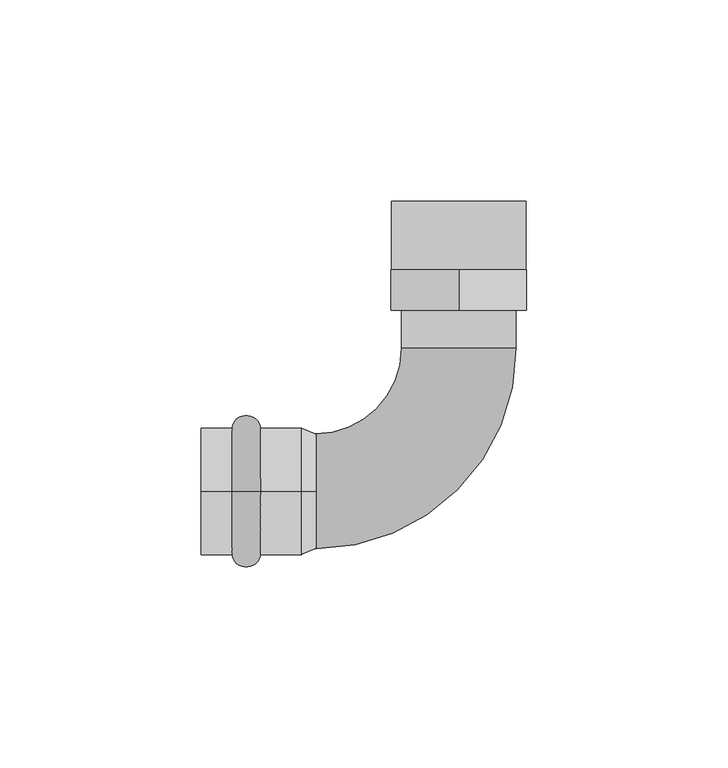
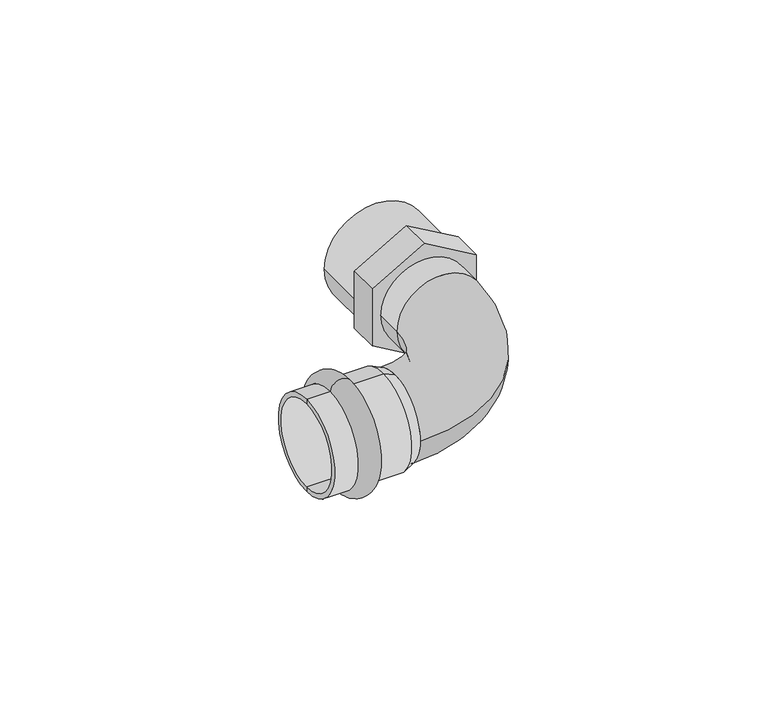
"""IFC4 building model written with IfcOpenShell, lengths in millimetres: pipe fitting geometry."""

from ifc_helpers import new_model, si_unit, point, frame, frame_2d, origin, place, context, project, spatial, polyline, circle_curve, ellipse_curve, trimmed, segment, composite_curve, outline, extrude, source, transform, mapped, element, save
from ifc_brep_helpers import plane_surface, cylinder_surface, revolved_surface, advanced_brep


def pipe_fitting_73b8666e(model_context):
    return source(origin(), model_context, "Body", "SolidModel", [
        advanced_brep(
        [(-17.3, 0.0, 15.75), (-17.3, 0.0, -15.75), (-10.3, 0.0, -15.75), (-10.3, 0.0, 15.75)],
        [
            (0, 1, circle_curve(frame((-17.3, 0.0, 0.0), z_axis=(-1.0, 0.0, 0.0), x_axis=(0.0, 0.0, -1.0)), 15.75)),
            (1, 2),
            (2, 3, circle_curve(frame((-10.3, 0.0, 0.0), z_axis=(1.0, 0.0, 0.0), x_axis=(0.0, 0.0, -1.0)), 15.75)),
            (3, 0),
            (1, 0, circle_curve(frame((-17.3, 0.0, 0.0), z_axis=(-1.0, 0.0, 0.0), x_axis=(0.0, 0.0, -1.0)), 15.75)),
            (3, 2, circle_curve(frame((-10.3, 0.0, 0.0), z_axis=(1.0, 0.0, 0.0), x_axis=(0.0, 0.0, -1.0)), 15.75)),
            (2, 1, ellipse_curve(frame((-13.8, 0.0, -15.75), z_axis=(0.0, 1.0, 0.0), x_axis=(-1.0, 0.0, 0.0)), 3.5, 3.1)),
            (0, 3, ellipse_curve(frame((-13.8, 0.0, 15.75), z_axis=(0.0, 1.0, 0.0), x_axis=(-1.0, 0.0, 0.0)), 3.5, 3.1)),
        ],
        [
            revolved_surface(polyline([(-10.3, 0.0, -15.75), (-17.3, 0.0, -15.75)]), (2.7, 0.0, 0.0), (1.0, 0.0, 0.0)),
            revolved_surface(trimmed(ellipse_curve(frame((-13.8, 0.0, -15.75), z_axis=(0.0, -1.0, 0.0), x_axis=(-1.0, 0.0, 0.0)), 3.5, 3.1), [point((-17.3, 0.0, -15.75))], [point((-10.3, 0.0, -15.75))], True, "CARTESIAN"), (2.7, 0.0, 0.0), (1.0, 0.0, 0.0)),
        ],
        [
            (0, [[1, 2, 3, 4]]),
            (0, [[5, -4, 6, -2]]),
            (1, [[-3, 7, -1, 8]]),
            (1, [[-6, -8, -5, -7]]),
        ],
    ),
        advanced_brep(
        [(3.5337785, 0.0, 14.25), (3.5337785, 0.0, -14.25), (0.0, 0.0, -15.75), (0.0, 0.0, 15.75), (-25.0, 0.0, 14.25), (-25.0, 0.0, -14.25), (-25.0, 0.0, 15.75), (-25.0, 0.0, -15.75)],
        [
            (0, 1, circle_curve(frame((3.5337785, 0.0, 0.0), z_axis=(-1.0, 0.0, 0.0), x_axis=(0.0, 0.0, -1.0)), 14.25)),
            (1, 2),
            (2, 3, circle_curve(frame((0.0, 0.0, 0.0), z_axis=(1.0, 0.0, 0.0), x_axis=(0.0, 0.0, -1.0)), 15.75)),
            (3, 0),
            (1, 0, circle_curve(frame((3.5337785, 0.0, 0.0), z_axis=(-1.0, 0.0, 0.0), x_axis=(0.0, 0.0, -1.0)), 14.25)),
            (3, 2, circle_curve(frame((0.0, 0.0, 0.0), z_axis=(1.0, 0.0, 0.0), x_axis=(0.0, 0.0, -1.0)), 15.75)),
            (4, 5, circle_curve(frame((-25.0, 0.0, 0.0), z_axis=(-1.0, 0.0, 0.0), x_axis=(0.0, 0.0, -1.0)), 14.25)),
            (5, 1),
            (0, 4),
            (5, 4, circle_curve(frame((-25.0, 0.0, 0.0), z_axis=(-1.0, 0.0, 0.0), x_axis=(0.0, 0.0, -1.0)), 14.25)),
            (6, 7, circle_curve(frame((-25.0, 0.0, 0.0), z_axis=(-1.0, 0.0, 0.0), x_axis=(0.0, 0.0, -1.0)), 15.75)),
            (7, 5),
            (4, 6),
            (7, 6, circle_curve(frame((-25.0, 0.0, 0.0), z_axis=(-1.0, 0.0, 0.0), x_axis=(0.0, 0.0, -1.0)), 15.75)),
            (2, 7),
            (6, 3),
        ],
        [
            revolved_surface(polyline([(0.0, 0.0, -15.75), (3.5337785, 0.0, -14.25)]), (2.7, 0.0, 0.0), (1.0, 0.0, 0.0)),
            revolved_surface(polyline([(3.5337785, 0.0, -14.25), (-25.0, 0.0, -14.25)]), (2.7, 0.0, 0.0), (1.0, 0.0, 0.0)),
            plane_surface(frame((-25.0, 0.0, 0.0), z_axis=(-1.0, 0.0, 0.0), x_axis=(0.0, 0.0, -1.0))),
            cylinder_surface(frame((2.7, 0.0, 0.0), z_axis=(1.0, 0.0, 0.0), x_axis=(0.0, 0.0, -1.0)), 15.75),
        ],
        [
            (0, [[1, 2, 3, 4]]),
            (0, [[5, -4, 6, -2]]),
            (1, [[7, 8, -1, 9]]),
            (1, [[10, -9, -5, -8]]),
            (2, [[11, 12, -7, 13]]),
            (2, [[14, -13, -10, -12]]),
            (3, [[-3, 15, -11, 16]]),
            (3, [[-6, -16, -14, -15]]),
        ],
    ),
        extrude(outline(polyline([(9.728352, 55.85), (19.4567041, 39.0), (9.728352, 22.15), (-9.728352, 22.15), (-19.4567041, 39.0), (-9.728352, 55.85), (9.728352, 55.85)]), holes=[polyline([(-5.34049, 29.75), (5.34049, 29.75), (10.68098, 39.0), (5.34049, 48.25), (-5.34049, 48.25), (-10.68098, 39.0), (-5.34049, 29.75)])]), frame((0.0, 45.0, 0.0), z_axis=(0.0, 1.0, 0.0), x_axis=(0.0, 0.0, 1.0)), (0.0, 0.0, 1.0), 10.0),
        extrude(outline(composite_curve([segment(trimmed(circle_curve(frame_2d((0.0, 39.0)), 16.75), [point((0.0, 22.25))], [point((0.0, 55.75))], False, "CARTESIAN"), True, "CONTINUOUS"), segment(trimmed(circle_curve(frame_2d((0.0, 39.0)), 16.75), [point((0.0, 55.75))], [point((0.0, 22.25))], False, "CARTESIAN"), True, "CONTINUOUS")], self_intersect=False)), frame((0.0, 55.0, 0.0), z_axis=(0.0, 1.0, 0.0), x_axis=(0.0, 0.0, 1.0)), (0.0, 0.0, 1.0), 17.0),
        advanced_brep(
        [(0.0, -14.25, 0.0), (0.0, 14.25, 0.0), (3.5337785, -14.25, 0.0), (3.5337785, 14.25, 0.0), (24.75, 35.4662215, 0.0), (53.25, 35.4662215, 0.0), (53.25, 45.0, 0.0), (24.75, 45.0, 0.0)],
        [
            (0, 1, circle_curve(frame((0.0, 0.0, 0.0), z_axis=(-1.0, 0.0, 0.0), x_axis=(0.0, 1.0, 0.0)), 14.25)),
            (1, 0, circle_curve(frame((0.0, 0.0, 0.0), z_axis=(-1.0, 0.0, 0.0), x_axis=(0.0, 1.0, 0.0)), 14.25)),
            (0, 2),
            (2, 3, circle_curve(frame((3.5337785, 0.0, 0.0), z_axis=(-1.0, 0.0, 0.0), x_axis=(0.0, 1.0, 0.0)), 14.25)),
            (3, 1),
            (3, 2, circle_curve(frame((3.5337785, 0.0, 0.0), z_axis=(-1.0, 0.0, 0.0), x_axis=(0.0, 1.0, 0.0)), 14.25)),
            (4, 3, circle_curve(frame((3.5337785, 35.4662215, 0.0), z_axis=(0.0, 0.0, -1.0), x_axis=(0.0, -1.0, 0.0)), 21.2162215)),
            (2, 5, circle_curve(frame((3.5337785, 35.4662215, 0.0), z_axis=(0.0, 0.0, 1.0), x_axis=(0.0, -1.0, 0.0)), 49.7162215)),
            (5, 4, circle_curve(frame((39.0, 35.4662215, 0.0), z_axis=(0.0, -1.0, 0.0), x_axis=(-1.0, 0.0, 0.0)), 14.25)),
            (4, 5, circle_curve(frame((39.0, 35.4662215, 0.0), z_axis=(0.0, -1.0, 0.0), x_axis=(-1.0, 0.0, 0.0)), 14.25)),
            (6, 7, circle_curve(frame((39.0, 45.0, 0.0), z_axis=(0.0, 1.0, 0.0), x_axis=(-1.0, 0.0, 0.0)), 14.25)),
            (7, 6, circle_curve(frame((39.0, 45.0, 0.0), z_axis=(0.0, 1.0, 0.0), x_axis=(-1.0, 0.0, 0.0)), 14.25)),
            (5, 6),
            (7, 4),
        ],
        [
            plane_surface(frame((0.0, 0.0, 0.0), z_axis=(-1.0, 0.0, 0.0), x_axis=(0.0, 0.0, 1.0))),
            cylinder_surface(frame((0.0, 0.0, 0.0), z_axis=(-1.0, 0.0, 0.0), x_axis=(0.0, 1.0, 0.0)), 14.25),
            revolved_surface(trimmed(ellipse_curve(frame((3.5337785, 0.0, 0.0), z_axis=(-1.0, 0.0, 0.0), x_axis=(0.0, 1.0, 0.0)), 14.25, 14.25), [point((3.5337785, -14.25, 0.0))], [point((3.5337785, 14.25, 0.0))], True, "CARTESIAN"), (3.5337785, 35.4662215, 0.0), (0.0, 0.0, 1.0)),
            revolved_surface(trimmed(ellipse_curve(frame((3.5337785, 0.0, 0.0), z_axis=(-1.0, 0.0, 0.0), x_axis=(0.0, 1.0, 0.0)), 14.25, 14.25), [point((3.5337785, 14.25, 0.0))], [point((3.5337785, -14.25, 0.0))], True, "CARTESIAN"), (3.5337785, 35.4662215, 0.0), (0.0, 0.0, 1.0)),
            plane_surface(frame((39.0, 45.0, 0.0), z_axis=(0.0, 1.0, 0.0), x_axis=(0.0, 0.0, 1.0))),
            cylinder_surface(frame((39.0, 35.4662215, 0.0), z_axis=(0.0, -1.0, 0.0), x_axis=(-1.0, 0.0, 0.0)), 14.25),
        ],
        [
            (0, [[1, 2]]),
            (1, [[-1, 3, 4, 5]]),
            (1, [[-2, -5, 6, -3]]),
            (2, [[7, -4, 8, 9]]),
            (3, [[-8, -6, -7, 10]]),
            (4, [[11, 12]]),
            (5, [[-9, 13, -12, 14]]),
            (5, [[-10, -14, -11, -13]]),
        ],
    ),
    ])


if __name__ == "__main__":
    model = new_model("IFC4")
    model_context = context("Model", 3, world=origin())
    ifc_project = project(units=[si_unit("LENGTHUNIT", "METRE", prefix="MILLI")], contexts=[model_context])
    site = spatial("IfcSite", under=ifc_project)
    building = spatial("IfcBuilding", under=site)
    placement = place(None, origin())
    pipe_fitting_shape = pipe_fitting_73b8666e(model_context)
    element("IfcPipeFitting", 1, ObjectType="РЕХАУ_Пресс Отвод НР : 28 x R 1\"", at=placement, inside=building, context=model_context, shape_type="MappedRepresentation", body=[
        mapped(pipe_fitting_shape, transform((0.0, 0.0, 0.0), x_axis=(1.0, 0.0, 0.0), y_axis=(0.0, 1.0, 0.0), z_axis=(0.0, 0.0, 1.0))),
    ])
    save(model, "model.ifc")
